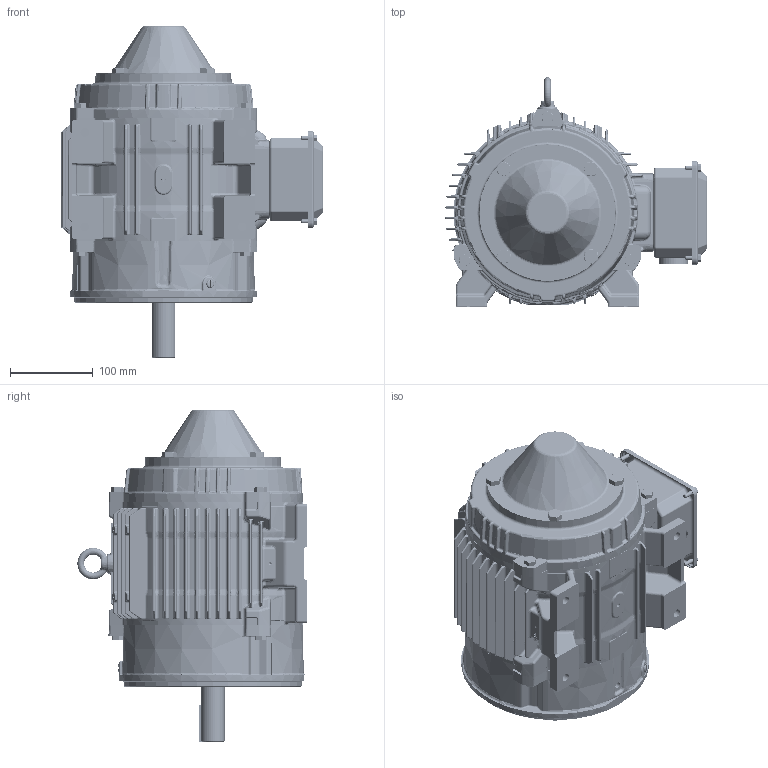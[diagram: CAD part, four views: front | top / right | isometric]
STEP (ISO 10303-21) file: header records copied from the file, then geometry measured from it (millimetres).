
FILE_DESCRIPTION (( 'STEP AP203' ), '1' );
FILE_NAME ('SS621254-100_RevA.STEP', '2022-02-07T10:25:19', ( '' ), ( '' ), 'SwSTEP 2.0', 'SolidWorks 2021', '' );
FILE_SCHEMA (( 'CONFIG_CONTROL_DESIGN' ));
Products named in the file (1): SS621254-100_RevA
Bounding box: 316.73 x 277.54 x 401.87 mm (x, y, z)
Volume: 3064947.4 mm3; surface area: 985408 mm2
Topology: 34 solids, 34 shells, 6526 faces, 15538 edges, 8932 vertices
Faces by surface type: bspline 2462, cylinder 1494, plane 965, torus 816, cone 536, sphere 253
Entity records: 263303 total; most frequent: CARTESIAN_POINT 131692, ORIENTED_EDGE 30552, DIRECTION 24005, EDGE_CURVE 15276, AXIS2_PLACEMENT_3D 10256, VERTEX_POINT 8925, EDGE_LOOP 6747, FACE_OUTER_BOUND 6526
